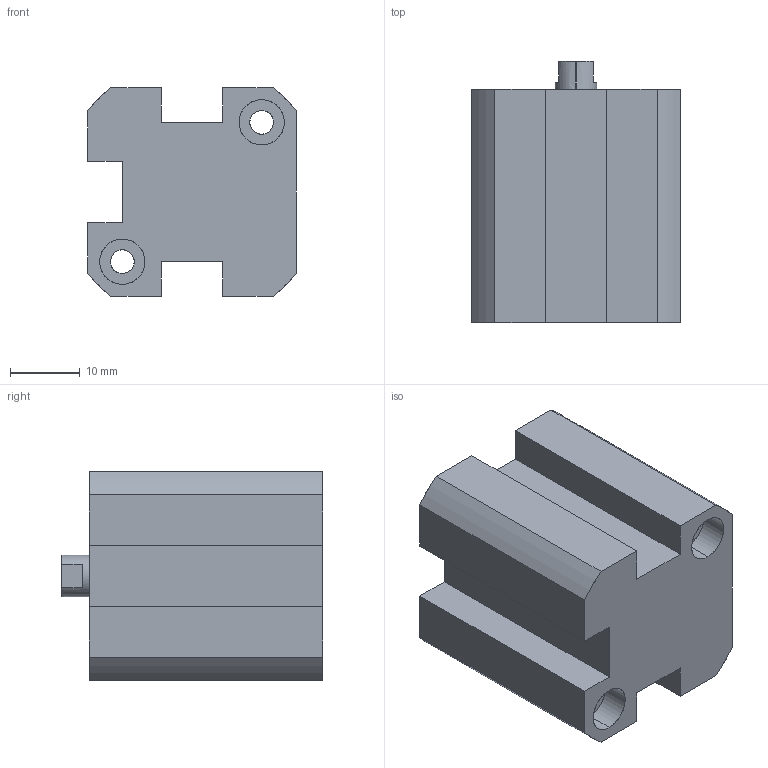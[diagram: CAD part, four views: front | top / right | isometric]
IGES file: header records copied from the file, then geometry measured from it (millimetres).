
Start section: SolidWorks IGES file using analytic representation for surfaces
Global section: file name: C:\Users\Toshiba\Desktop\XC#1-16D-10.IGS; native system: SolidWorks 2014; preprocessor: SolidWorks 2014; author: Toshiba; date: 160523.153743; units: millimetre
Bounding box: 30 x 37.5 x 30 mm (x, y, z)
Surface area: 7572.7 mm2 (no closed solid volume)
Topology: 0 solids, 0 shells, 73 faces, 1123 edges, 1119 vertices
Faces by surface type: revolution 41, bspline 32
